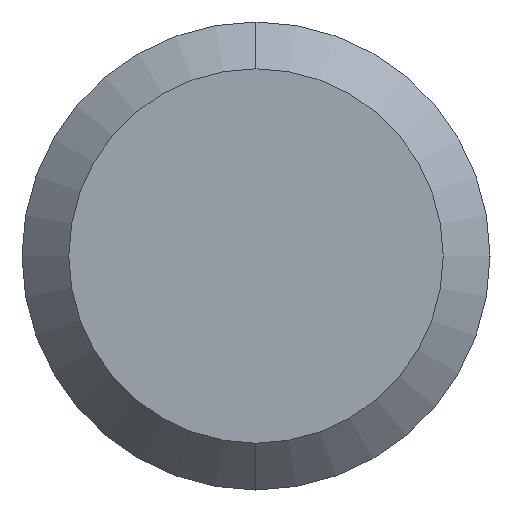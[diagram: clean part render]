
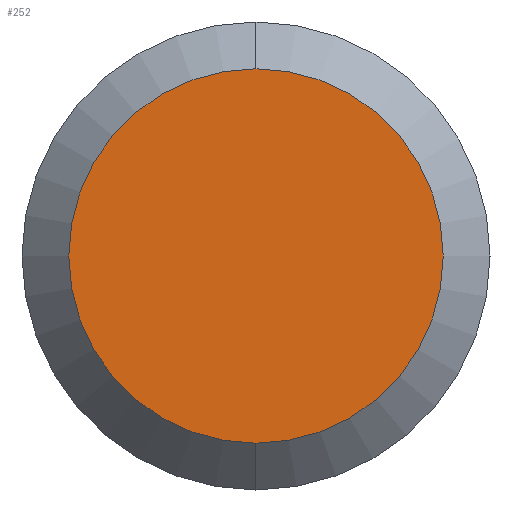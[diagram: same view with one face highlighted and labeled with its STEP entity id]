
A CAD part, left-side view. The second image highlights one B-rep face of the part: STEP entity #252.
In plain terms, the highlighted planar face has unit normal (-1, 0, 0).
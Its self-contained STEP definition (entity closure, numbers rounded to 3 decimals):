
#26 = DIRECTION ( 'NONE',  ( 0., 0., 1. ) ) ;
#28 = DIRECTION ( 'NONE',  ( -1., 0., 0. ) ) ;
#91 = AXIS2_PLACEMENT_3D ( 'NONE', #445, #205, #467 ) ;
#119 = AXIS2_PLACEMENT_3D ( 'NONE', #401, #28, #26 ) ;
#123 = FACE_OUTER_BOUND ( 'NONE', #172, .T. ) ;
#172 = EDGE_LOOP ( 'NONE', ( #312, #273 ) ) ;
#181 = CARTESIAN_POINT ( 'NONE',  ( 0., 2.4, 0. ) ) ;
#205 = DIRECTION ( 'NONE',  ( -1., 0., 0. ) ) ;
#234 = VERTEX_POINT ( 'NONE', #366 ) ;
#241 = PLANE ( 'NONE',  #389 ) ;
#250 = DIRECTION ( 'NONE',  ( 0., 0., -1. ) ) ;
#252 = ADVANCED_FACE ( 'NONE', ( #123 ), #241, .F. ) ;
#258 = DIRECTION ( 'NONE',  ( 1., 0., 0. ) ) ;
#273 = ORIENTED_EDGE ( 'NONE', *, *, #351, .T. ) ;
#312 = ORIENTED_EDGE ( 'NONE', *, *, #503, .T. ) ;
#351 = EDGE_CURVE ( 'NONE', #411, #234, #392, .T. ) ;
#366 = CARTESIAN_POINT ( 'NONE',  ( 0., 0., -2.4 ) ) ;
#389 = AXIS2_PLACEMENT_3D ( 'NONE', #181, #258, #250 ) ;
#392 = CIRCLE ( 'NONE', #119, 2.4 ) ;
#401 = CARTESIAN_POINT ( 'NONE',  ( 0., 0., 0. ) ) ;
#411 = VERTEX_POINT ( 'NONE', #460 ) ;
#421 = CIRCLE ( 'NONE', #91, 2.4 ) ;
#445 = CARTESIAN_POINT ( 'NONE',  ( 0., 0., 0. ) ) ;
#460 = CARTESIAN_POINT ( 'NONE',  ( 0., 0., 2.4 ) ) ;
#467 = DIRECTION ( 'NONE',  ( 0., 0., 1. ) ) ;
#503 = EDGE_CURVE ( 'NONE', #234, #411, #421, .T. ) ;
